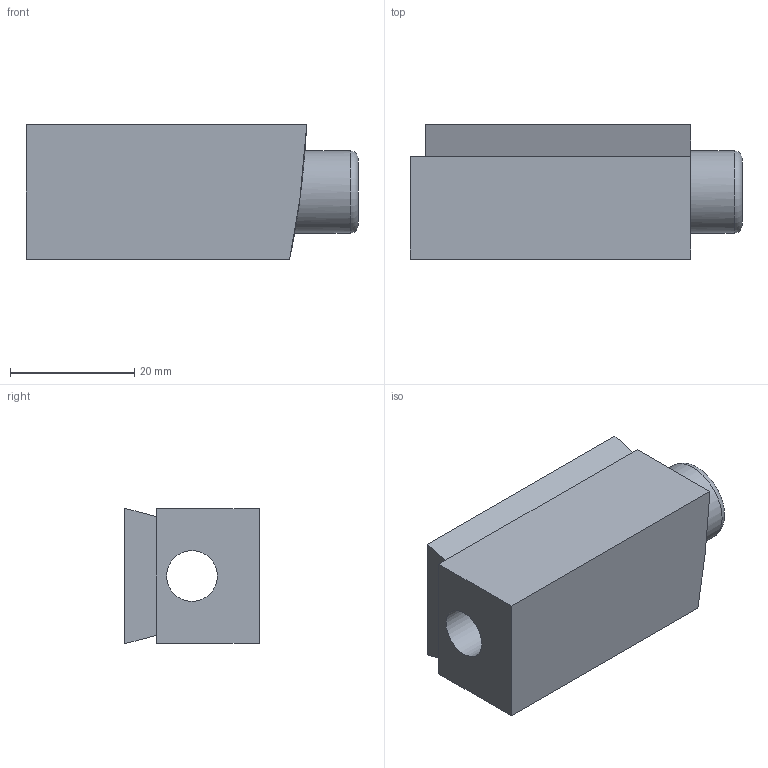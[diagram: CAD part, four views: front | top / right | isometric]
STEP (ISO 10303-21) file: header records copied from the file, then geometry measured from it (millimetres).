
FILE_DESCRIPTION(/* description */ (''),/* implementation_level */ '2;1');
FILE_NAME(/* name */ 'C:\Users\garre\3D Objects\back outside croc axle holder.stp',/* time_stamp */ '2021-09-03T20:52:48-04:00',/* author */ ('garre'),/* organization */ (''),/* preprocessor_version */ 'ST-DEVELOPER v18.1',/* originating_system */ 'Autodesk Inventor 2022',/* authorisation */ '');
FILE_SCHEMA (('AUTOMOTIVE_DESIGN { 1 0 10303 214 3 1 1 }'));
Length unit declared in the file: inch
Products named in the file (1): back outside croc axle holder
Bounding box: 53.34 x 21.59 x 21.77 mm (x, y, z)
Volume: 18471.5 mm3; surface area: 6432.9 mm2
Topology: 1 solids, 1 shells, 15 faces, 37 edges, 24 vertices
Faces by surface type: plane 10, cylinder 2, bspline 2, torus 1
Full cylindrical faces by diameter (mm): 8.128 x1, 13.208 x1
Entity records: 649 total; most frequent: CARTESIAN_POINT 266, ORIENTED_EDGE 74, DIRECTION 60, EDGE_CURVE 37, VERTEX_POINT 24, LINE 20, VECTOR 20, AXIS2_PLACEMENT_3D 20
